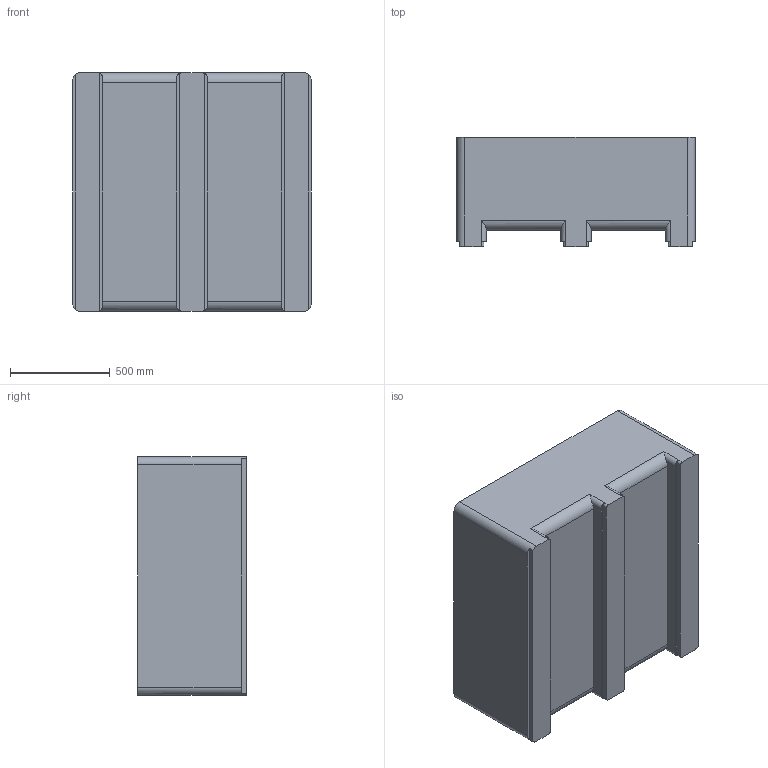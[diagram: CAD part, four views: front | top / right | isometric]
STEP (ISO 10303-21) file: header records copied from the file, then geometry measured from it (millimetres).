
FILE_DESCRIPTION (( 'STEP AP214' ), '1' );
FILE_NAME ('16S Block Model.STEP', '2013-06-03T15:28:55', ( 'Bryant Conder' ), ( '' ), 'SwSTEP 2.0', 'SolidWorks 2013', '' );
FILE_SCHEMA (( 'AUTOMOTIVE_DESIGN' ));
Length unit declared in the file: inch
Products named in the file (1): 16S Block Model
Bounding box: 1196.97 x 546.1 x 1196.97 mm (x, y, z)
Volume: 195205303.6 mm3; surface area: 7264461.8 mm2
Topology: 1 solids, 1 shells, 79 faces, 212 edges, 136 vertices
Faces by surface type: plane 39, cylinder 36, torus 4
Entity records: 2790 total; most frequent: CARTESIAN_POINT 764, ORIENTED_EDGE 424, DIRECTION 416, EDGE_CURVE 212, AXIS2_PLACEMENT_3D 144, VERTEX_POINT 136, VECTOR 128, LINE 128
